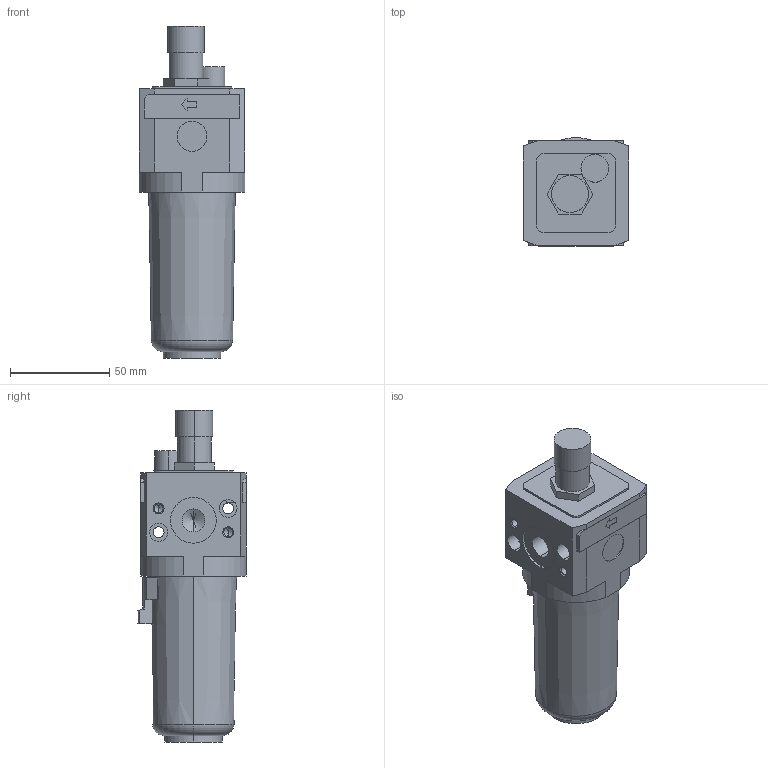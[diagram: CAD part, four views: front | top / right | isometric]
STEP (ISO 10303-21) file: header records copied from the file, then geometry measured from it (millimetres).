
FILE_DESCRIPTION((''),'2;1');
FILE_NAME('I:\DOC-EDP\Lib-3d\FRL\17203A.stp','2003-06-16T14:54:32',('maffial1'),(''),'Autodesk Inventor 7','Autodesk Inventor 7','');
FILE_SCHEMA(('AUTOMOTIVE_DESIGN { 1 0 10303 214 1 1 1 1 }'));
Length unit declared in the file: millimetre
Products named in the file (1): 17203A
Bounding box: 53 x 54.39 x 167 mm (x, y, z)
Volume: 255283.8 mm3; surface area: 38707.7 mm2
Topology: 1 solids, 3 shells, 177 faces, 442 edges, 280 vertices
Faces by surface type: plane 69, bspline 57, cylinder 36, cone 13, torus 2
Entity records: 5577 total; most frequent: CARTESIAN_POINT 1451, ORIENTED_EDGE 860, DIRECTION 806, EDGE_CURVE 430, VECTOR 296, LINE 296, VERTEX_POINT 280, AXIS2_PLACEMENT_3D 255
